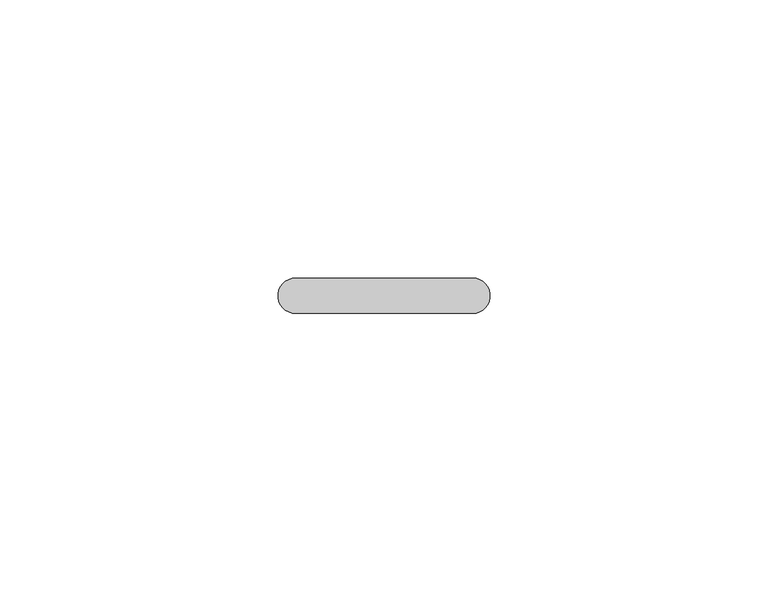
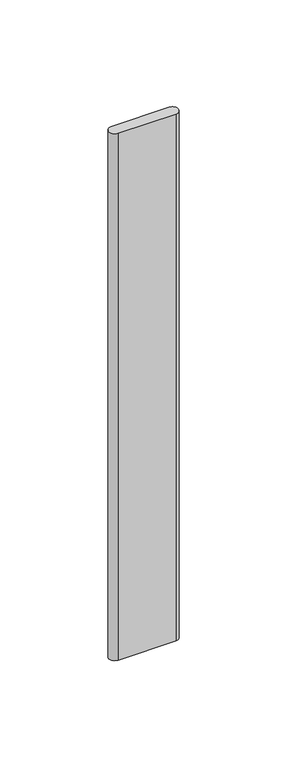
"""IFC4 building model written with IfcOpenShell, lengths in millimetres: proxy geometry, Durabond Generic Model Insulation Adhesive Flat : Durabond Generic Model Insulation Adhesive Flat."""

from ifc_helpers import new_model, si_unit, point, frame_2d, origin, origin_with_axes, place, context, project, spatial, polyline, circle_curve, trimmed, segment, composite_curve, outline, extrude, source, transform, mapped, element, save


def generic_models_0b6704b8(model_context):
    return source(origin(), model_context, "Body", "SweptSolid", [
        extrude(outline(composite_curve([segment(trimmed(circle_curve(frame_2d((15.875, 0.0)), 3.175), [point((15.875, 3.175))], [point((15.875, -3.175))], False, "CARTESIAN"), True, "CONTINUOUS"), segment(polyline([(15.875, -3.175), (-15.875, -3.175)]), True, "CONTINUOUS"), segment(trimmed(circle_curve(frame_2d((-15.875, 0.0)), 3.175), [point((-15.875, -3.175))], [point((-15.875, 3.175))], False, "CARTESIAN"), True, "CONTINUOUS"), segment(polyline([(-15.875, 3.175), (15.875, 3.175)]), True, "CONTINUOUS")], self_intersect=False)), origin_with_axes(), (0.0, 0.0, 1.0), 304.8),
    ])


if __name__ == "__main__":
    model = new_model("IFC4")
    model_context = context("Model", 3, world=origin())
    ifc_project = project(units=[si_unit("LENGTHUNIT", "METRE", prefix="MILLI")], contexts=[model_context])
    site = spatial("IfcSite", under=ifc_project)
    building = spatial("IfcBuilding", under=site)
    placement = place(None, origin())
    generic_models_shape = generic_models_0b6704b8(model_context)
    element("IfcBuildingElementProxy", 1, Name="Durabond Generic Model Insulation Adhesive Flat : Durabond Generic Model Insulation Adhesive Flat", ObjectType="Durabond Generic Model Insulation Adhesive Flat : Durabond Generic Model Insulation Adhesive Flat", at=placement, inside=building, context=model_context, shape_type="MappedRepresentation", body=[
        mapped(generic_models_shape, transform((0.0, 0.0, 0.0), x_axis=(1.0, 0.0, 0.0), y_axis=(0.0, 1.0, 0.0), z_axis=(0.0, 0.0, 1.0))),
    ])
    save(model, "model.ifc")
